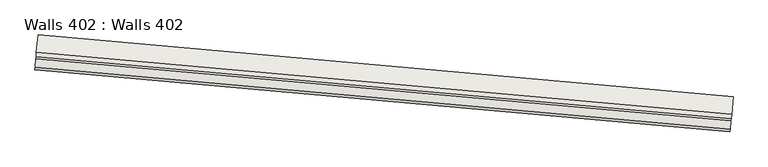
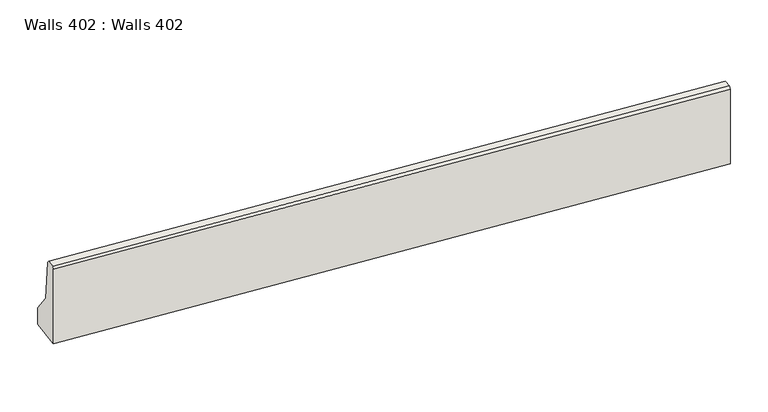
"""IFC4 building model written with IfcOpenShell, lengths in millimetres: wall geometry, Walls 402 : Walls 402."""

import ifcopenshell
import ifcopenshell.guid

model = None  # the IFC model being written
_history = None  # IfcOwnerHistory: only IFC2X3 demands one
_inside = {}  # id of a spatial element -> (the spatial element, [elements in it])
_under = {}  # id of a project, library or spatial element -> (it, [spatial elements below it])
_declared = {}  # id of a project -> (the project, [libraries it declares])
_typed = {}  # id of a type object -> (the type object, [elements of that type])
_made_of = {}  # id of a material, layer set ... -> (it, [elements and type objects made of it])


def new_model(schema):
    """Start an empty IFC model of exactly this schema.

    Asked for "IFC4X3", IfcOpenShell would pick the latest addendum, in which some entities
    have other attributes; the version numbers below select the first issue.
    IFC2X3 requires an IfcOwnerHistory on every rooted entity: one is made here for all.
    """
    global model, _history
    if schema == "IFC4X3":
        model = ifcopenshell.file(schema_version=(4, 3, 0, 0))
    else:
        model = ifcopenshell.file(schema=schema)
    _inside.clear()
    _under.clear()
    _declared.clear()
    _typed.clear()
    _made_of.clear()
    _history = None
    if model.schema == "IFC2X3":
        org = make("IfcOrganization", Name="unknown")
        user = make(
            "IfcPersonAndOrganization",
            ThePerson=make("IfcPerson", FamilyName="unknown"),
            TheOrganization=org,
        )
        app = make(
            "IfcApplication",
            ApplicationDeveloper=org,
            Version="unknown",
            ApplicationFullName="unknown",
            ApplicationIdentifier="unknown",
        )
        _history = make(
            "IfcOwnerHistory",
            OwningUser=user,
            OwningApplication=app,
            ChangeAction="ADDED",
            CreationDate=0,
        )
    return model


def make(cls, **values):
    """One entity of the class cls with the attributes given. An attribute that is None is left unset."""
    return model.create_entity(
        cls, **{name: value for name, value in values.items() if value is not None}
    )


def rooted(cls, **values):
    """An entity with a GlobalId (a new one), such as an element, a storey or a relation."""
    return make(cls, GlobalId=ifcopenshell.guid.new(), OwnerHistory=_history, **values)


def si_unit(unit_type, name, prefix=None):
    """IfcSIUnit, for example si_unit("LENGTHUNIT", "METRE", prefix="MILLI")."""
    return make("IfcSIUnit", UnitType=unit_type, Prefix=prefix, Name=name)


def assignment(units):
    """IfcUnitAssignment: the units of a project."""
    return None if units is None else make("IfcUnitAssignment", Units=units)


def point(xyz):
    """IfcCartesianPoint."""
    return None if xyz is None else make("IfcCartesianPoint", Coordinates=xyz)


def direction(xyz):
    """IfcDirection."""
    return None if xyz is None else make("IfcDirection", DirectionRatios=xyz)


def frame(location, z_axis=None, x_axis=None):
    """IfcAxis2Placement3D, a coordinate frame: its origin and axes. An axis left out is left unset."""
    return make(
        "IfcAxis2Placement3D",
        Location=point(location),
        Axis=direction(z_axis),
        RefDirection=direction(x_axis),
    )


def origin():
    """The frame at (0, 0, 0) with its axes left unset."""
    return frame((0.0, 0.0, 0.0))


def place(relative_to, where):
    """IfcLocalPlacement: puts the frame where relative to a parent placement (None: the world)."""
    return make(
        "IfcLocalPlacement", PlacementRelTo=relative_to, RelativePlacement=where
    )


def context(
    kind, dimensions, precision=None, world=None, true_north=None, identifier=None
):
    """IfcGeometricRepresentationContext, for example the 3D "Model" context."""
    return make(
        "IfcGeometricRepresentationContext",
        ContextIdentifier=identifier,
        ContextType=kind,
        CoordinateSpaceDimension=dimensions,
        Precision=precision,
        WorldCoordinateSystem=world,
        TrueNorth=true_north,
    )


def project(units=None, contexts=None):
    """IfcProject with its units and contexts."""
    return rooted(
        "IfcProject",
        Name="project",
        RepresentationContexts=contexts,
        UnitsInContext=assignment(units),
    )


def spatial(cls, under=None, at=None, **own):
    """A site, building, storey or space (cls), placed at a placement, below another one or the project."""
    s = rooted(cls, ObjectPlacement=at, **own)
    if under is not None:
        _under.setdefault(under.id(), (under, []))[1].append(s)
    return s


def polyline(points):
    """IfcPolyline through the points."""
    return make("IfcPolyline", Points=[point(p) for p in points])


def outline(outer, holes=None, kind="AREA"):
    """IfcArbitraryClosedProfileDef: a profile drawn as a closed curve; with holes, ...WithVoids."""
    if holes is None:
        return make("IfcArbitraryClosedProfileDef", ProfileType=kind, OuterCurve=outer)
    return make(
        "IfcArbitraryProfileDefWithVoids",
        ProfileType=kind,
        OuterCurve=outer,
        InnerCurves=holes,
    )


def extrude(swept, where, along, depth):
    """IfcExtrudedAreaSolid: the profile swept, set in the frame where, extruded along a direction by depth."""
    return make(
        "IfcExtrudedAreaSolid",
        SweptArea=swept,
        Position=where,
        ExtrudedDirection=direction(along),
        Depth=depth,
    )


def shape(context_of_items, identifier, shape_type, items):
    """IfcShapeRepresentation: the items that make up one representation, for example the "Body"."""
    return make(
        "IfcShapeRepresentation",
        ContextOfItems=context_of_items,
        RepresentationIdentifier=identifier,
        RepresentationType=shape_type,
        Items=items,
    )


def source(mapping_origin, context_of_items, identifier, shape_type, items):
    """IfcRepresentationMap: a shape defined once, which mapped items show again and again."""
    return make(
        "IfcRepresentationMap",
        MappingOrigin=mapping_origin,
        MappedRepresentation=shape(context_of_items, identifier, shape_type, items),
    )


def transform(
    local_origin,
    x_axis=None,
    y_axis=None,
    z_axis=None,
    scale=None,
    scale2=None,
    scale3=None,
    uniform=True,
):
    """IfcCartesianTransformationOperator3D, or its non-uniform kind. x_axis, y_axis, z_axis: its Axis1, 2, 3."""
    if uniform:
        return make(
            "IfcCartesianTransformationOperator3D",
            Axis1=direction(x_axis),
            Axis2=direction(y_axis),
            LocalOrigin=point(local_origin),
            Scale=scale,
            Axis3=direction(z_axis),
        )
    return make(
        "IfcCartesianTransformationOperator3DnonUniform",
        Axis1=direction(x_axis),
        Axis2=direction(y_axis),
        LocalOrigin=point(local_origin),
        Scale=scale,
        Axis3=direction(z_axis),
        Scale2=scale2,
        Scale3=scale3,
    )


def mapped(mapping_source, mapping_target):
    """IfcMappedItem: shows the shape of a source again, moved by a transform."""
    return make(
        "IfcMappedItem", MappingSource=mapping_source, MappingTarget=mapping_target
    )


def made_of(thing, what):
    """Note that an element or type object is made of a material, layer set ...; save() writes the relation."""
    if what is not None:
        _made_of.setdefault(what.id(), (what, []))[1].append(thing)
    return thing


def element(
    cls,
    number,
    at=None,
    inside=None,
    cuts=None,
    type_object=None,
    material=None,
    context=None,
    identifier="Body",
    shape_type=None,
    held_by="IfcProductDefinitionShape",
    body=None,
    shapes=None,
    **own,
):
    """One element of the class cls, such as IfcWall. Its Tag is "e" and its number.

    at: its placement. inside: the storey or other place that contains it. cuts: it is an
    opening in that element (IfcRelVoidsElement). A single representation is given by context,
    identifier, shape_type and body (its items); several are given by shapes. held_by: the class
    of the entity that holds the representations. save() writes the other relations.
    """
    e = rooted(cls, Tag="e%d" % number, ObjectPlacement=at, **own)
    if body is not None:
        shapes = [shape(context, identifier, shape_type, body)]
    if shapes is not None:
        e.Representation = make(held_by, Representations=shapes)
    if inside is not None:
        _inside.setdefault(inside.id(), (inside, []))[1].append(e)
    if cuts is not None:
        rooted(
            "IfcRelVoidsElement", RelatingBuildingElement=cuts, RelatedOpeningElement=e
        )
    if type_object is not None:
        _typed.setdefault(type_object.id(), (type_object, []))[1].append(e)
    return made_of(e, material)


def aggregate(whole, parts):
    """IfcRelAggregates: a whole, such as a stair, and the parts it consists of."""
    return rooted("IfcRelAggregates", RelatingObject=whole, RelatedObjects=parts)


def save(model, path):
    """Write the relations noted so far, then the file.

    IfcRelAggregates (storeys below a building ...), IfcRelContainedInSpatialStructure (elements
    in a storey), IfcRelDefinesByType, IfcRelAssociatesMaterial and IfcRelDeclares: one each for
    every whole, place, type object, material and project.
    """
    for whole, parts in _under.values():
        aggregate(whole, parts)
    for where, things in _inside.values():
        rooted(
            "IfcRelContainedInSpatialStructure",
            RelatedElements=things,
            RelatingStructure=where,
        )
    for kind, things in _typed.values():
        rooted("IfcRelDefinesByType", RelatedObjects=things, RelatingType=kind)
    for what, things in _made_of.values():
        rooted("IfcRelAssociatesMaterial", RelatedObjects=things, RelatingMaterial=what)
    for by, libraries in _declared.values():
        rooted("IfcRelDeclares", RelatingContext=by, RelatedDefinitions=libraries)
    model.write(path)


def walls_402_walls_402_8200fc6a(model_context):
    return source(origin(), model_context, "Body", "SweptSolid", [
        extrude(outline(polyline([(638180.0, 400.0), (638430.0, 200.0), (638935.0, 150.0000001), (638960.0, 125.0), (638960.0, 25.0), (638935.0, 0.0), (637960.0, 0.0), (637960.0, 400.0), (638180.0, 400.0)])), frame((-555142.5220676, -429623.5370437, 0.0), z_axis=(-0.9960550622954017, 0.08873732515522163, 0.0), x_axis=(0.0, 0.0, 1.0)), (0.0, 0.0, 1.0), 8000.0000001),
    ])


if __name__ == "__main__":
    model = new_model("IFC4")
    model_context = context("Model", 3, world=origin())
    ifc_project = project(units=[si_unit("LENGTHUNIT", "METRE", prefix="MILLI")], contexts=[model_context])
    site = spatial("IfcSite", under=ifc_project)
    building = spatial("IfcBuilding", under=site)
    placement = place(None, origin())
    walls_402_walls_402_shape = walls_402_walls_402_8200fc6a(model_context)
    element("IfcWall", 1, ObjectType="Walls 402 : Walls 402", at=placement, inside=building, context=model_context, shape_type="MappedRepresentation", body=[
        mapped(walls_402_walls_402_shape, transform((0.0, 0.0, 0.0), x_axis=(1.0, 0.0, 0.0), y_axis=(0.0, 1.0, 0.0), z_axis=(0.0, 0.0, 1.0))),
    ])
    save(model, "model.ifc")
